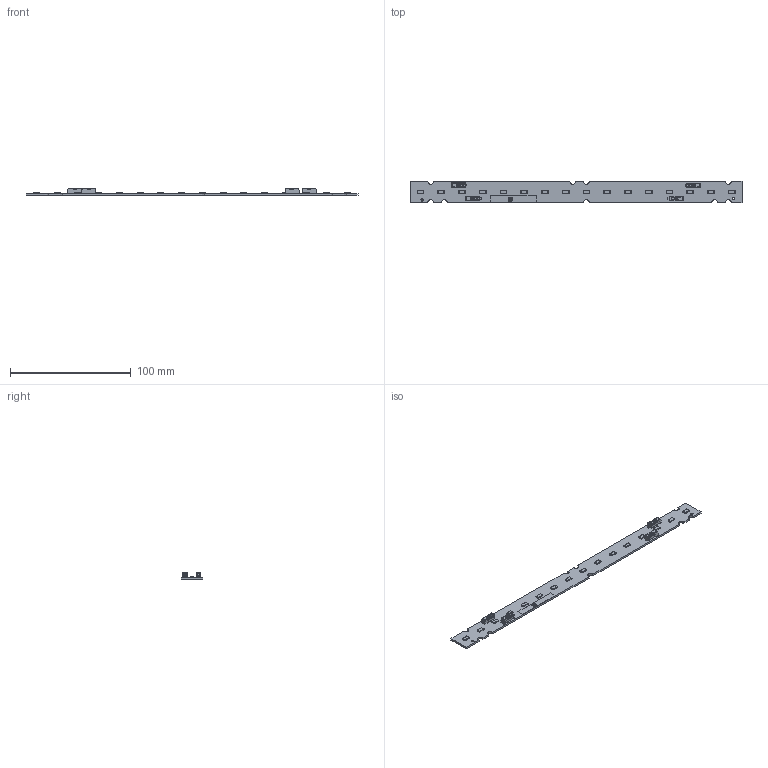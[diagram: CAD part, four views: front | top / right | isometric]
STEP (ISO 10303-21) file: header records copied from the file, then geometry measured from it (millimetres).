
FILE_DESCRIPTION(/* description */ (''),/* implementation_level */ '2;1');
FILE_NAME(/* name */ 'M282B_G2_MODULE.stp',/* time_stamp */ '2016-03-28T18:29:55+09:00',/* author */ (''),/* organization */ (''),/* preprocessor_version */ 'ST-DEVELOPER v15',/* originating_system */ 'SIEMENS PLM Software NX 8.5',/* authorisation */ '');
FILE_SCHEMA (('AP203_CONFIGURATION_CONTROLLED_3D_DESIGN_OF_MECHANICAL_PARTS_AND_ASSEMBLIES_MIM_LF { 1 0 10303 403 2 1 2}'));
Products named in the file (1): jjjj034498ACqsyf
Bounding box: 275 x 18 x 5.75 mm (x, y, z)
Volume: 8080.4 mm3; surface area: 14260.4 mm2
Topology: 26 solids, 26 shells, 1740 faces, 5458 edges, 3994 vertices
Faces by surface type: plane 1482, cylinder 197, bspline 24, torus 20, extrusion 9, sphere 8
Full cylindrical faces by diameter (mm): 2 x2
Entity records: 71738 total; most frequent: CARTESIAN_POINT 25808, ORIENTED_EDGE 9670, DIRECTION 8804, EDGE_CURVE 4835, VECTOR 4496, LINE 4487, VERTEX_POINT 3174, AXIS2_PLACEMENT_3D 2154
